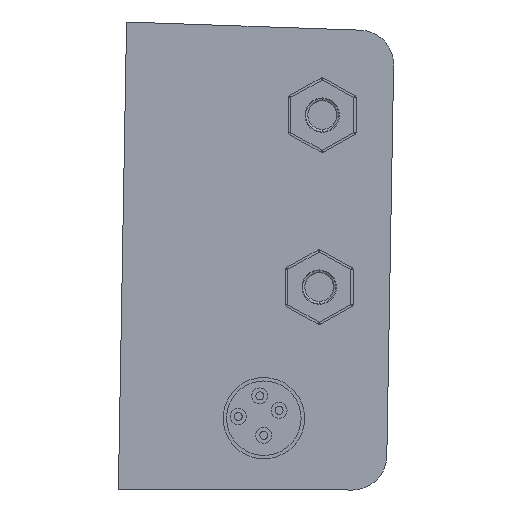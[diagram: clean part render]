
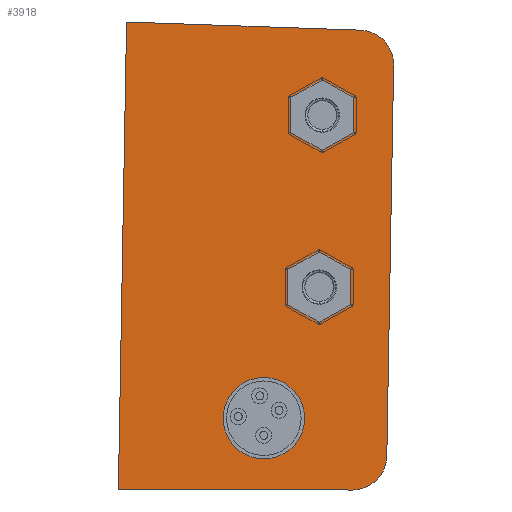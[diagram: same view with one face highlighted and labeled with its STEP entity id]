
A CAD part, left-side view. The second image highlights one B-rep face of the part: STEP entity #3918.
In plain terms, the highlighted planar face has unit normal (-1, 0, 0).
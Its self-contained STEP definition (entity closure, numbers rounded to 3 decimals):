
#38 = CARTESIAN_POINT ( 'NONE',  ( -101.969, 6.15, -3.602 ) ) ;
#77 = EDGE_CURVE ( 'NONE', #1600, #4813, #415, .T. ) ;
#85 = EDGE_CURVE ( 'NONE', #4773, #3304, #2674, .T. ) ;
#116 = AXIS2_PLACEMENT_3D ( 'NONE', #2764, #5102, #705 ) ;
#146 = VERTEX_POINT ( 'NONE', #2888 ) ;
#178 = CARTESIAN_POINT ( 'NONE',  ( -101.969, 0., 20.311 ) ) ;
#242 = AXIS2_PLACEMENT_3D ( 'NONE', #959, #2147, #1325 ) ;
#359 = CARTESIAN_POINT ( 'NONE',  ( -101.969, 3., 17.363 ) ) ;
#368 = LINE ( 'NONE', #442, #4349 ) ;
#415 = LINE ( 'NONE', #2386, #4737 ) ;
#442 = CARTESIAN_POINT ( 'NONE',  ( -101.969, 0., -19.689 ) ) ;
#463 = AXIS2_PLACEMENT_3D ( 'NONE', #3297, #2239, #579 ) ;
#492 = CARTESIAN_POINT ( 'NONE',  ( -101.969, 6.15, 14.398 ) ) ;
#497 = EDGE_CURVE ( 'NONE', #1182, #146, #2970, .T. ) ;
#579 = DIRECTION ( 'NONE',  ( 0., 0., 1. ) ) ;
#582 = VERTEX_POINT ( 'NONE', #1736 ) ;
#597 = CARTESIAN_POINT ( 'NONE',  ( -101.969, 2.948, -19.741 ) ) ;
#693 = ORIENTED_EDGE ( 'NONE', *, *, #497, .F. ) ;
#705 = DIRECTION ( 'NONE',  ( 0., 0., -1. ) ) ;
#876 = VERTEX_POINT ( 'NONE', #38 ) ;
#919 = ORIENTED_EDGE ( 'NONE', *, *, #1724, .F. ) ;
#959 = CARTESIAN_POINT ( 'NONE',  ( -101.969, 6.15, 12.898 ) ) ;
#1007 = CARTESIAN_POINT ( 'NONE',  ( -101.969, 23.35, 20.718 ) ) ;
#1022 = DIRECTION ( 'NONE',  ( 0., 0., 1. ) ) ;
#1039 = CARTESIAN_POINT ( 'NONE',  ( -101.969, 23.35, -19.689 ) ) ;
#1073 = DIRECTION ( 'NONE',  ( 0., 0., -1. ) ) ;
#1125 = VECTOR ( 'NONE', #1754, 1000. ) ;
#1182 = VERTEX_POINT ( 'NONE', #492 ) ;
#1321 = CARTESIAN_POINT ( 'NONE',  ( -101.969, 6.15, -2.102 ) ) ;
#1325 = DIRECTION ( 'NONE',  ( 0., 0., 1. ) ) ;
#1477 = FACE_BOUND ( 'NONE', #4870, .T. ) ;
#1509 = DIRECTION ( 'NONE',  ( 1., 0., 0. ) ) ;
#1600 = VERTEX_POINT ( 'NONE', #3656 ) ;
#1601 = DIRECTION ( 'NONE',  ( -1., 0., 0. ) ) ;
#1624 = CIRCLE ( 'NONE', #116, 3. ) ;
#1681 = DIRECTION ( 'NONE',  ( 0., 0., 1. ) ) ;
#1693 = VECTOR ( 'NONE', #2296, 1000. ) ;
#1724 = EDGE_CURVE ( 'NONE', #3565, #876, #1850, .T. ) ;
#1736 = CARTESIAN_POINT ( 'NONE',  ( -101.969, 0., -16.741 ) ) ;
#1745 = CARTESIAN_POINT ( 'NONE',  ( -101.969, 6.15, -2.102 ) ) ;
#1754 = DIRECTION ( 'NONE',  ( 0., -1., -0.017 ) ) ;
#1824 = EDGE_CURVE ( 'NONE', #4813, #582, #1624, .T. ) ;
#1836 = CARTESIAN_POINT ( 'NONE',  ( -101.969, 0., 17.363 ) ) ;
#1850 = CIRCLE ( 'NONE', #3821, 1.5 ) ;
#1959 = DIRECTION ( 'NONE',  ( 0., 0., -1. ) ) ;
#1968 = DIRECTION ( 'NONE',  ( 0., 0., 1. ) ) ;
#2045 = DIRECTION ( 'NONE',  ( -1., 0., 0. ) ) ;
#2077 = AXIS2_PLACEMENT_3D ( 'NONE', #359, #1601, #1959 ) ;
#2147 = DIRECTION ( 'NONE',  ( -1., 0., 0. ) ) ;
#2239 = DIRECTION ( 'NONE',  ( -1., 0., 0. ) ) ;
#2288 = EDGE_LOOP ( 'NONE', ( #919, #4517 ) ) ;
#2296 = DIRECTION ( 'NONE',  ( 0., 0., 1. ) ) ;
#2386 = CARTESIAN_POINT ( 'NONE',  ( -101.969, 23.343, -20.097 ) ) ;
#2437 = ORIENTED_EDGE ( 'NONE', *, *, #2858, .T. ) ;
#2572 = EDGE_CURVE ( 'NONE', #3730, #3304, #4898, .T. ) ;
#2674 = CIRCLE ( 'NONE', #2077, 3. ) ;
#2764 = CARTESIAN_POINT ( 'NONE',  ( -101.969, 3., -16.741 ) ) ;
#2799 = ORIENTED_EDGE ( 'NONE', *, *, #4544, .F. ) ;
#2858 = EDGE_CURVE ( 'NONE', #582, #4773, #368, .T. ) ;
#2888 = CARTESIAN_POINT ( 'NONE',  ( -101.969, 6.15, 11.398 ) ) ;
#2970 = CIRCLE ( 'NONE', #242, 1.5 ) ;
#3032 = PLANE ( 'NONE',  #4540 ) ;
#3271 = EDGE_CURVE ( 'NONE', #876, #3565, #4189, .T. ) ;
#3297 = CARTESIAN_POINT ( 'NONE',  ( -101.969, 6.15, 12.898 ) ) ;
#3304 = VERTEX_POINT ( 'NONE', #4885 ) ;
#3565 = VERTEX_POINT ( 'NONE', #5077 ) ;
#3571 = EDGE_CURVE ( 'NONE', #1600, #3730, #3577, .T. ) ;
#3577 = LINE ( 'NONE', #4367, #1693 ) ;
#3656 = CARTESIAN_POINT ( 'NONE',  ( -101.969, 23.35, -20.097 ) ) ;
#3713 = ORIENTED_EDGE ( 'NONE', *, *, #3571, .F. ) ;
#3730 = VERTEX_POINT ( 'NONE', #1007 ) ;
#3812 = FACE_OUTER_BOUND ( 'NONE', #4603, .T. ) ;
#3821 = AXIS2_PLACEMENT_3D ( 'NONE', #1745, #4124, #1022 ) ;
#3918 = ADVANCED_FACE ( 'NONE', ( #1477, #4202, #3812 ), #3032, .F. ) ;
#3987 = ORIENTED_EDGE ( 'NONE', *, *, #85, .T. ) ;
#4093 = AXIS2_PLACEMENT_3D ( 'NONE', #1321, #2045, #1681 ) ;
#4124 = DIRECTION ( 'NONE',  ( -1., 0., 0. ) ) ;
#4189 = CIRCLE ( 'NONE', #4093, 1.5 ) ;
#4202 = FACE_BOUND ( 'NONE', #2288, .T. ) ;
#4349 = VECTOR ( 'NONE', #1968, 1000. ) ;
#4367 = CARTESIAN_POINT ( 'NONE',  ( -101.969, 23.35, -19.689 ) ) ;
#4452 = ORIENTED_EDGE ( 'NONE', *, *, #2572, .F. ) ;
#4506 = CIRCLE ( 'NONE', #463, 1.5 ) ;
#4517 = ORIENTED_EDGE ( 'NONE', *, *, #3271, .F. ) ;
#4540 = AXIS2_PLACEMENT_3D ( 'NONE', #1039, #1509, #1073 ) ;
#4543 = ORIENTED_EDGE ( 'NONE', *, *, #77, .T. ) ;
#4544 = EDGE_CURVE ( 'NONE', #146, #1182, #4506, .T. ) ;
#4603 = EDGE_LOOP ( 'NONE', ( #4543, #5061, #2437, #3987, #4452, #3713 ) ) ;
#4737 = VECTOR ( 'NONE', #5129, 1000. ) ;
#4773 = VERTEX_POINT ( 'NONE', #1836 ) ;
#4813 = VERTEX_POINT ( 'NONE', #597 ) ;
#4870 = EDGE_LOOP ( 'NONE', ( #693, #2799 ) ) ;
#4885 = CARTESIAN_POINT ( 'NONE',  ( -101.969, 2.948, 20.362 ) ) ;
#4898 = LINE ( 'NONE', #178, #1125 ) ;
#5061 = ORIENTED_EDGE ( 'NONE', *, *, #1824, .T. ) ;
#5077 = CARTESIAN_POINT ( 'NONE',  ( -101.969, 6.15, -0.602 ) ) ;
#5102 = DIRECTION ( 'NONE',  ( -1., 0., 0. ) ) ;
#5129 = DIRECTION ( 'NONE',  ( 0., -1., 0.017 ) ) ;
